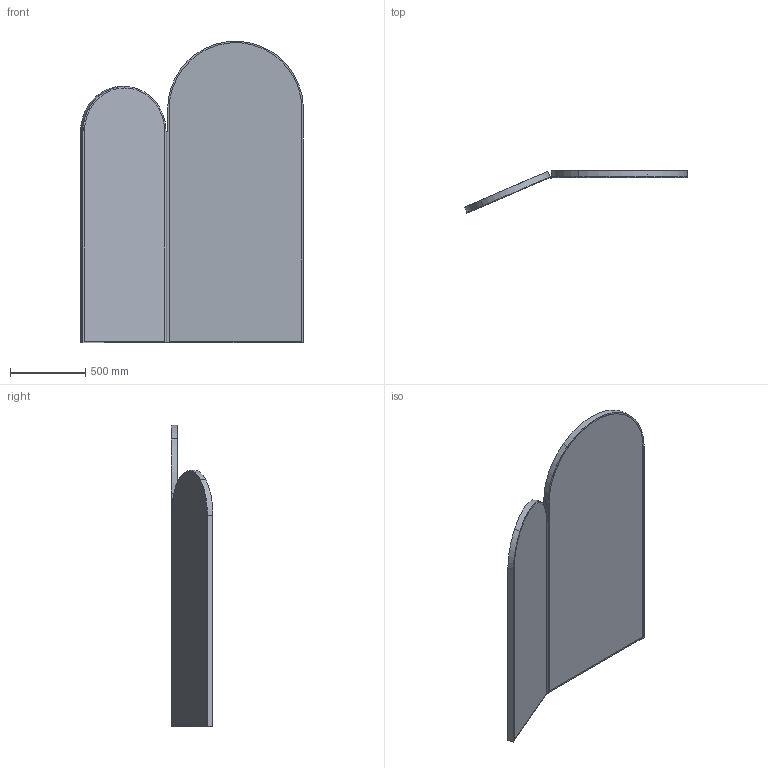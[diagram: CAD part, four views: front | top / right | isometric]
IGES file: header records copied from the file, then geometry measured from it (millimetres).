
Start section: Data from Parasolid IGES Translator 19.0.9, Copyright(c) 2006 Siemens PL M Software. All Rights Reserved.
Global section: file name: noorth-mirror-H 200 D 4 W 150_5356.igs; native system: By Siemens PLM Incorporated; preprocessor: XPlus GENERIC/IGES 19.0.9; author: Noname; organization: Noname; date: 20200519.094042; units: metre
Bounding box: 1477.31 x 277.13 x 1999.38 mm (x, y, z)
Volume: 71714671.4 mm3; surface area: 11665760.9 mm2
Topology: 7 solids, 7 shells, 59 faces, 135 edges, 90 vertices
Faces by surface type: plane 48, cylinder 11
Full cylindrical faces by diameter (mm): 10 x1
